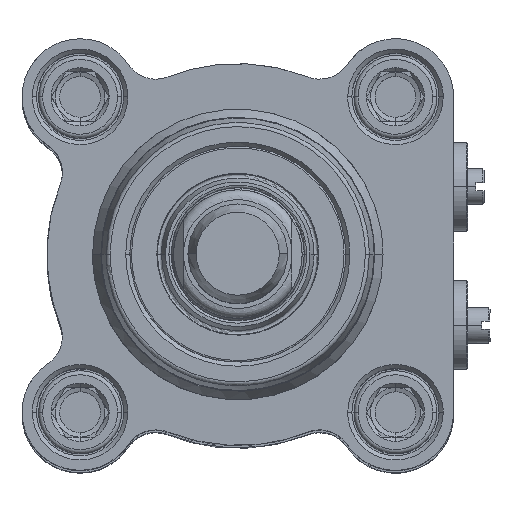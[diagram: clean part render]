
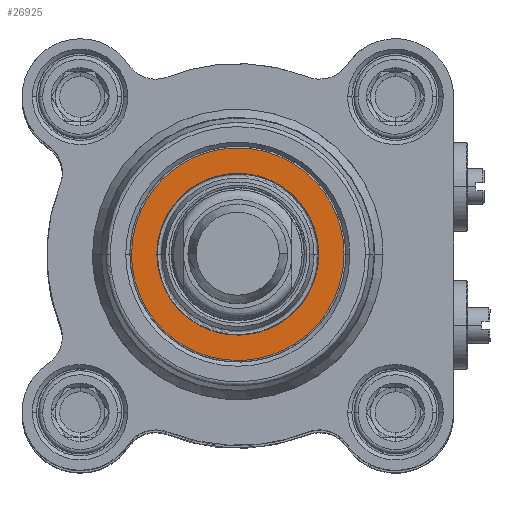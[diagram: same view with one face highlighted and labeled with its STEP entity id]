
A CAD part, top view. The second image highlights one B-rep face of the part: STEP entity #26925.
In plain terms, the highlighted planar face has unit normal (0, 0, 1).
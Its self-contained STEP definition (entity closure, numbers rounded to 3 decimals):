
#153 = CARTESIAN_POINT ( 'NONE',  ( 4.91, -8.519, 123.8 ) ) ;
#290 = CARTESIAN_POINT ( 'NONE',  ( -8.519, -4.91, 123.8 ) ) ;
#1052 = CARTESIAN_POINT ( 'NONE',  ( 10.236, 7.866, 123.8 ) ) ;
#1514 = CARTESIAN_POINT ( 'NONE',  ( -3.35, -12.467, 123.8 ) ) ;
#1658 = CARTESIAN_POINT ( 'NONE',  ( -12.8, 0., 123.8 ) ) ;
#1737 = EDGE_LOOP ( 'NONE', ( #14125, #11085 ) ) ;
#2110 = CARTESIAN_POINT ( 'NONE',  ( -5.992, -7.797, 123.8 ) ) ;
#2167 = CARTESIAN_POINT ( 'NONE',  ( -9.496, 2.552, 123.8 ) ) ;
#2256 = CARTESIAN_POINT ( 'NONE',  ( 1.276, -9.75, 123.8 ) ) ;
#2405 = CARTESIAN_POINT ( 'NONE',  ( 9.75, 0., 123.8 ) ) ;
#3000 = CARTESIAN_POINT ( 'NONE',  ( -10.236, 7.866, 123.8 ) ) ;
#3469 = DIRECTION ( 'NONE',  ( 0., -1., 0. ) ) ;
#3913 = CARTESIAN_POINT ( 'NONE',  ( -12.467, -3.35, 123.8 ) ) ;
#4120 = CARTESIAN_POINT ( 'NONE',  ( 9.496, 2.552, 123.8 ) ) ;
#4722 = CARTESIAN_POINT ( 'NONE',  ( -8.519, 4.91, 123.8 ) ) ;
#5051 = CARTESIAN_POINT ( 'NONE',  ( 12.8, 0., 123.8 ) ) ;
#5260 = CARTESIAN_POINT ( 'NONE',  ( -12.8, 0., 123.8 ) ) ;
#5415 = CARTESIAN_POINT ( 'NONE',  ( -11.184, 6.446, 123.8 ) ) ;
#5531 = CARTESIAN_POINT ( 'NONE',  ( -12.8, 0., 123.8 ) ) ;
#5707 = CARTESIAN_POINT ( 'NONE',  ( -1.676, 12.8, 123.8 ) ) ;
#5862 = CARTESIAN_POINT ( 'NONE',  ( 12.467, 3.35, 123.8 ) ) ;
#6165 = CARTESIAN_POINT ( 'NONE',  ( -11.184, -6.446, 123.8 ) ) ;
#6468 = CARTESIAN_POINT ( 'NONE',  ( 11.184, -6.446, 123.8 ) ) ;
#6473 = EDGE_CURVE ( 'NONE', #19116, #16184, #21473, .T. ) ;
#6528 = CARTESIAN_POINT ( 'NONE',  ( -9.75, 1.276, 123.8 ) ) ;
#6615 = CARTESIAN_POINT ( 'NONE',  ( 12.8, -1.676, 123.8 ) ) ;
#6777 = CARTESIAN_POINT ( 'NONE',  ( -9.75, 0., 123.8 ) ) ;
#6841 = CARTESIAN_POINT ( 'NONE',  ( 2.552, 9.496, 123.8 ) ) ;
#7015 = EDGE_CURVE ( 'NONE', #16184, #19116, #17923, .T. ) ;
#7515 = CARTESIAN_POINT ( 'NONE',  ( -7.866, 10.236, 123.8 ) ) ;
#8109 = CARTESIAN_POINT ( 'NONE',  ( -12.8, 1.676, 123.8 ) ) ;
#9230 = CARTESIAN_POINT ( 'NONE',  ( 9.75, 1.276, 123.8 ) ) ;
#9453 = CARTESIAN_POINT ( 'NONE',  ( -2.552, -9.496, 123.8 ) ) ;
#10961 = CARTESIAN_POINT ( 'NONE',  ( -1.676, -12.8, 123.8 ) ) ;
#11085 = ORIENTED_EDGE ( 'NONE', *, *, #26268, .F. ) ;
#11118 = CARTESIAN_POINT ( 'NONE',  ( -7.866, -10.236, 123.8 ) ) ;
#11403 = CARTESIAN_POINT ( 'NONE',  ( -9.75, 0., 123.8 ) ) ;
#11637 = CARTESIAN_POINT ( 'NONE',  ( -4.91, 8.519, 123.8 ) ) ;
#12173 = CARTESIAN_POINT ( 'NONE',  ( 3.35, 12.467, 123.8 ) ) ;
#12315 = CARTESIAN_POINT ( 'NONE',  ( 12.8, 0., 123.8 ) ) ;
#13221 = CARTESIAN_POINT ( 'NONE',  ( 7.866, -10.236, 123.8 ) ) ;
#13289 = CARTESIAN_POINT ( 'NONE',  ( 7.797, 5.992, 123.8 ) ) ;
#13530 = CARTESIAN_POINT ( 'NONE',  ( -9.496, -2.552, 123.8 ) ) ;
#13675 = CARTESIAN_POINT ( 'NONE',  ( -1.276, -9.75, 123.8 ) ) ;
#13823 = CARTESIAN_POINT ( 'NONE',  ( -7.797, -5.992, 123.8 ) ) ;
#14125 = ORIENTED_EDGE ( 'NONE', *, *, #24348, .F. ) ;
#14430 = CARTESIAN_POINT ( 'NONE',  ( -6.446, 11.184, 123.8 ) ) ;
#14479 = ORIENTED_EDGE ( 'NONE', *, *, #7015, .F. ) ;
#14594 = FACE_BOUND ( 'NONE', #1737, .T. ) ;
#14718 = ORIENTED_EDGE ( 'NONE', *, *, #6473, .F. ) ;
#15028 = CARTESIAN_POINT ( 'NONE',  ( 12.8, 1.676, 123.8 ) ) ;
#15544 = CARTESIAN_POINT ( 'NONE',  ( 9.75, 0., 123.8 ) ) ;
#15691 = CARTESIAN_POINT ( 'NONE',  ( 8.519, 4.91, 123.8 ) ) ;
#15774 = CARTESIAN_POINT ( 'NONE',  ( 5.992, -7.797, 123.8 ) ) ;
#15929 = CARTESIAN_POINT ( 'NONE',  ( -9.75, -1.276, 123.8 ) ) ;
#15993 = CARTESIAN_POINT ( 'NONE',  ( -5.992, 7.797, 123.8 ) ) ;
#16184 = VERTEX_POINT ( 'NONE', #5051 ) ;
#16672 = CARTESIAN_POINT ( 'NONE',  ( 6.446, 11.184, 123.8 ) ) ;
#17432 = CARTESIAN_POINT ( 'NONE',  ( 0., -12.8, 123.8 ) ) ;
#17436 = CARTESIAN_POINT ( 'NONE',  ( -6.446, -11.184, 123.8 ) ) ;
#17804 = CARTESIAN_POINT ( 'NONE',  ( -9.75, 0., 123.8 ) ) ;
#17906 = VERTEX_POINT ( 'NONE', #11403 ) ;
#17923 = B_SPLINE_CURVE_WITH_KNOTS ( 'NONE', 3,
 ( #27041, #6615, #20278, #6468, #22229, #13221, #22676, #18026, #22084, #10961, #1514, #17436, #11118, #26736, #6165, #3913, #19682, #1658 ),
 .UNSPECIFIED., .F., .F.,
 ( 4, 2, 2, 2, 2, 2, 2, 2, 4 ),
 ( 0.5, 0.563, 0.625, 0.687, 0.75, 0.813, 0.875, 0.938, 1. ),
 .UNSPECIFIED. ) ;
#18026 = CARTESIAN_POINT ( 'NONE',  ( 3.35, -12.467, 123.8 ) ) ;
#18399 = CARTESIAN_POINT ( 'NONE',  ( -7.797, 5.992, 123.8 ) ) ;
#18623 = CARTESIAN_POINT ( 'NONE',  ( 9.75, -1.276, 123.8 ) ) ;
#18956 = B_SPLINE_CURVE_WITH_KNOTS ( 'NONE', 3,
 ( #6777, #15929, #13530, #290, #13823, #2110, #22974, #9453, #13675, #2256, #25231, #153, #15774, #29755, #20570, #24935, #18623, #2405 ),
 .UNSPECIFIED., .F., .F.,
 ( 4, 2, 2, 2, 2, 2, 2, 2, 4 ),
 ( 0., 0.062, 0.125, 0.188, 0.25, 0.313, 0.375, 0.438, 0.5 ),
 .UNSPECIFIED. ) ;
#19116 = VERTEX_POINT ( 'NONE', #5531 ) ;
#19190 = EDGE_LOOP ( 'NONE', ( #14479, #14718 ) ) ;
#19513 = CARTESIAN_POINT ( 'NONE',  ( 1.676, 12.8, 123.8 ) ) ;
#19682 = CARTESIAN_POINT ( 'NONE',  ( -12.8, -1.676, 123.8 ) ) ;
#20278 = CARTESIAN_POINT ( 'NONE',  ( 12.467, -3.35, 123.8 ) ) ;
#20570 = CARTESIAN_POINT ( 'NONE',  ( 8.519, -4.91, 123.8 ) ) ;
#21329 = CARTESIAN_POINT ( 'NONE',  ( -3.35, 12.467, 123.8 ) ) ;
#21473 = B_SPLINE_CURVE_WITH_KNOTS ( 'NONE', 3,
 ( #5260, #8109, #23574, #5415, #3000, #7515, #14430, #21329, #5707, #19513, #12173, #16672, #21914, #1052, #24019, #5862, #15028, #12315 ),
 .UNSPECIFIED., .F., .F.,
 ( 4, 2, 2, 2, 2, 2, 2, 2, 4 ),
 ( 0., 0.063, 0.125, 0.188, 0.25, 0.313, 0.375, 0.438, 0.5 ),
 .UNSPECIFIED. ) ;
#21914 = CARTESIAN_POINT ( 'NONE',  ( 7.866, 10.236, 123.8 ) ) ;
#22084 = CARTESIAN_POINT ( 'NONE',  ( 1.676, -12.8, 123.8 ) ) ;
#22229 = CARTESIAN_POINT ( 'NONE',  ( 10.236, -7.866, 123.8 ) ) ;
#22440 = CARTESIAN_POINT ( 'NONE',  ( -1.276, 9.75, 123.8 ) ) ;
#22676 = CARTESIAN_POINT ( 'NONE',  ( 6.446, -11.184, 123.8 ) ) ;
#22887 = CARTESIAN_POINT ( 'NONE',  ( -2.552, 9.496, 123.8 ) ) ;
#22974 = CARTESIAN_POINT ( 'NONE',  ( -4.91, -8.519, 123.8 ) ) ;
#23574 = CARTESIAN_POINT ( 'NONE',  ( -12.467, 3.35, 123.8 ) ) ;
#24019 = CARTESIAN_POINT ( 'NONE',  ( 11.184, 6.446, 123.8 ) ) ;
#24348 = EDGE_CURVE ( 'NONE', #17906, #25288, #18956, .T. ) ;
#24698 = CARTESIAN_POINT ( 'NONE',  ( 5.992, 7.797, 123.8 ) ) ;
#24935 = CARTESIAN_POINT ( 'NONE',  ( 9.496, -2.552, 123.8 ) ) ;
#25004 = CARTESIAN_POINT ( 'NONE',  ( 1.276, 9.75, 123.8 ) ) ;
#25231 = CARTESIAN_POINT ( 'NONE',  ( 2.552, -9.496, 123.8 ) ) ;
#25288 = VERTEX_POINT ( 'NONE', #27606 ) ;
#26268 = EDGE_CURVE ( 'NONE', #25288, #17906, #26682, .T. ) ;
#26682 = B_SPLINE_CURVE_WITH_KNOTS ( 'NONE', 3,
 ( #15544, #9230, #4120, #15691, #13289, #24698, #27100, #6841, #25004, #22440, #22887, #11637, #15993, #18399, #4722, #2167, #6528, #17804 ),
 .UNSPECIFIED., .F., .F.,
 ( 4, 2, 2, 2, 2, 2, 2, 2, 4 ),
 ( 0.5, 0.563, 0.625, 0.688, 0.75, 0.813, 0.875, 0.938, 1. ),
 .UNSPECIFIED. ) ;
#26736 = CARTESIAN_POINT ( 'NONE',  ( -10.236, -7.866, 123.8 ) ) ;
#26925 = ADVANCED_FACE ( 'NONE', ( #28998, #14594 ), #28853, .F. ) ;
#27041 = CARTESIAN_POINT ( 'NONE',  ( 12.8, 0., 123.8 ) ) ;
#27100 = CARTESIAN_POINT ( 'NONE',  ( 4.91, 8.519, 123.8 ) ) ;
#27606 = CARTESIAN_POINT ( 'NONE',  ( 9.75, 0., 123.8 ) ) ;
#27794 = AXIS2_PLACEMENT_3D ( 'NONE', #17432, #28709, #3469 ) ;
#28709 = DIRECTION ( 'NONE',  ( 0., 0., -1. ) ) ;
#28853 = PLANE ( 'NONE',  #27794 ) ;
#28998 = FACE_OUTER_BOUND ( 'NONE', #19190, .T. ) ;
#29755 = CARTESIAN_POINT ( 'NONE',  ( 7.797, -5.992, 123.8 ) ) ;
